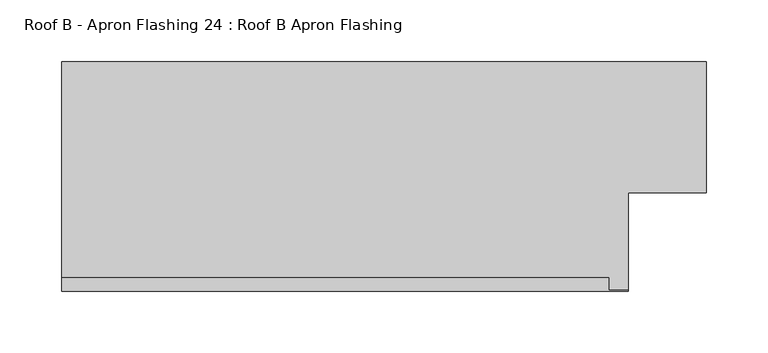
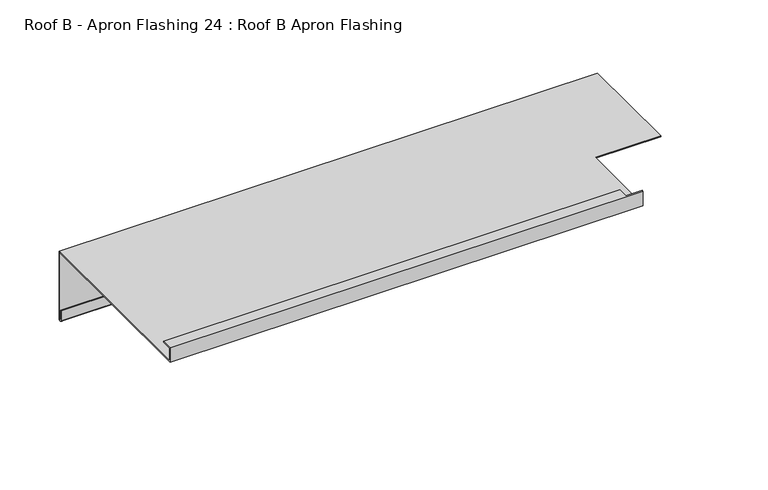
"""IFC4 building model written with IfcOpenShell, lengths in millimetres: proxy geometry, Roof B - Apron Flashing 24 : Roof B Apron Flashing."""

import ifcopenshell
import ifcopenshell.guid

model = None  # the IFC model being written
_history = None  # IfcOwnerHistory: only IFC2X3 demands one
_inside = {}  # id of a spatial element -> (the spatial element, [elements in it])
_under = {}  # id of a project, library or spatial element -> (it, [spatial elements below it])
_declared = {}  # id of a project -> (the project, [libraries it declares])
_typed = {}  # id of a type object -> (the type object, [elements of that type])
_made_of = {}  # id of a material, layer set ... -> (it, [elements and type objects made of it])


def new_model(schema):
    """Start an empty IFC model of exactly this schema.

    Asked for "IFC4X3", IfcOpenShell would pick the latest addendum, in which some entities
    have other attributes; the version numbers below select the first issue.
    IFC2X3 requires an IfcOwnerHistory on every rooted entity: one is made here for all.
    """
    global model, _history
    if schema == "IFC4X3":
        model = ifcopenshell.file(schema_version=(4, 3, 0, 0))
    else:
        model = ifcopenshell.file(schema=schema)
    _inside.clear()
    _under.clear()
    _declared.clear()
    _typed.clear()
    _made_of.clear()
    _history = None
    if model.schema == "IFC2X3":
        org = make("IfcOrganization", Name="unknown")
        user = make(
            "IfcPersonAndOrganization",
            ThePerson=make("IfcPerson", FamilyName="unknown"),
            TheOrganization=org,
        )
        app = make(
            "IfcApplication",
            ApplicationDeveloper=org,
            Version="unknown",
            ApplicationFullName="unknown",
            ApplicationIdentifier="unknown",
        )
        _history = make(
            "IfcOwnerHistory",
            OwningUser=user,
            OwningApplication=app,
            ChangeAction="ADDED",
            CreationDate=0,
        )
    return model


def make(cls, **values):
    """One entity of the class cls with the attributes given. An attribute that is None is left unset."""
    return model.create_entity(
        cls, **{name: value for name, value in values.items() if value is not None}
    )


def rooted(cls, **values):
    """An entity with a GlobalId (a new one), such as an element, a storey or a relation."""
    return make(cls, GlobalId=ifcopenshell.guid.new(), OwnerHistory=_history, **values)


def si_unit(unit_type, name, prefix=None):
    """IfcSIUnit, for example si_unit("LENGTHUNIT", "METRE", prefix="MILLI")."""
    return make("IfcSIUnit", UnitType=unit_type, Prefix=prefix, Name=name)


def assignment(units):
    """IfcUnitAssignment: the units of a project."""
    return None if units is None else make("IfcUnitAssignment", Units=units)


def point(xyz):
    """IfcCartesianPoint."""
    return None if xyz is None else make("IfcCartesianPoint", Coordinates=xyz)


def direction(xyz):
    """IfcDirection."""
    return None if xyz is None else make("IfcDirection", DirectionRatios=xyz)


def frame(location, z_axis=None, x_axis=None):
    """IfcAxis2Placement3D, a coordinate frame: its origin and axes. An axis left out is left unset."""
    return make(
        "IfcAxis2Placement3D",
        Location=point(location),
        Axis=direction(z_axis),
        RefDirection=direction(x_axis),
    )


def origin():
    """The frame at (0, 0, 0) with its axes left unset."""
    return frame((0.0, 0.0, 0.0))


def place(relative_to, where):
    """IfcLocalPlacement: puts the frame where relative to a parent placement (None: the world)."""
    return make(
        "IfcLocalPlacement", PlacementRelTo=relative_to, RelativePlacement=where
    )


def context(
    kind, dimensions, precision=None, world=None, true_north=None, identifier=None
):
    """IfcGeometricRepresentationContext, for example the 3D "Model" context."""
    return make(
        "IfcGeometricRepresentationContext",
        ContextIdentifier=identifier,
        ContextType=kind,
        CoordinateSpaceDimension=dimensions,
        Precision=precision,
        WorldCoordinateSystem=world,
        TrueNorth=true_north,
    )


def project(units=None, contexts=None):
    """IfcProject with its units and contexts."""
    return rooted(
        "IfcProject",
        Name="project",
        RepresentationContexts=contexts,
        UnitsInContext=assignment(units),
    )


def spatial(cls, under=None, at=None, **own):
    """A site, building, storey or space (cls), placed at a placement, below another one or the project."""
    s = rooted(cls, ObjectPlacement=at, **own)
    if under is not None:
        _under.setdefault(under.id(), (under, []))[1].append(s)
    return s


def polyline(points):
    """IfcPolyline through the points."""
    return make("IfcPolyline", Points=[point(p) for p in points])


def circle_curve(where, radius):
    """IfcCircle in the frame where."""
    return make("IfcCircle", Position=where, Radius=radius)


def shape(context_of_items, identifier, shape_type, items):
    """IfcShapeRepresentation: the items that make up one representation, for example the "Body"."""
    return make(
        "IfcShapeRepresentation",
        ContextOfItems=context_of_items,
        RepresentationIdentifier=identifier,
        RepresentationType=shape_type,
        Items=items,
    )


def source(mapping_origin, context_of_items, identifier, shape_type, items):
    """IfcRepresentationMap: a shape defined once, which mapped items show again and again."""
    return make(
        "IfcRepresentationMap",
        MappingOrigin=mapping_origin,
        MappedRepresentation=shape(context_of_items, identifier, shape_type, items),
    )


def transform(
    local_origin,
    x_axis=None,
    y_axis=None,
    z_axis=None,
    scale=None,
    scale2=None,
    scale3=None,
    uniform=True,
):
    """IfcCartesianTransformationOperator3D, or its non-uniform kind. x_axis, y_axis, z_axis: its Axis1, 2, 3."""
    if uniform:
        return make(
            "IfcCartesianTransformationOperator3D",
            Axis1=direction(x_axis),
            Axis2=direction(y_axis),
            LocalOrigin=point(local_origin),
            Scale=scale,
            Axis3=direction(z_axis),
        )
    return make(
        "IfcCartesianTransformationOperator3DnonUniform",
        Axis1=direction(x_axis),
        Axis2=direction(y_axis),
        LocalOrigin=point(local_origin),
        Scale=scale,
        Axis3=direction(z_axis),
        Scale2=scale2,
        Scale3=scale3,
    )


def mapped(mapping_source, mapping_target):
    """IfcMappedItem: shows the shape of a source again, moved by a transform."""
    return make(
        "IfcMappedItem", MappingSource=mapping_source, MappingTarget=mapping_target
    )


def made_of(thing, what):
    """Note that an element or type object is made of a material, layer set ...; save() writes the relation."""
    if what is not None:
        _made_of.setdefault(what.id(), (what, []))[1].append(thing)
    return thing


def element(
    cls,
    number,
    at=None,
    inside=None,
    cuts=None,
    type_object=None,
    material=None,
    context=None,
    identifier="Body",
    shape_type=None,
    held_by="IfcProductDefinitionShape",
    body=None,
    shapes=None,
    **own,
):
    """One element of the class cls, such as IfcWall. Its Tag is "e" and its number.

    at: its placement. inside: the storey or other place that contains it. cuts: it is an
    opening in that element (IfcRelVoidsElement). A single representation is given by context,
    identifier, shape_type and body (its items); several are given by shapes. held_by: the class
    of the entity that holds the representations. save() writes the other relations.
    """
    e = rooted(cls, Tag="e%d" % number, ObjectPlacement=at, **own)
    if body is not None:
        shapes = [shape(context, identifier, shape_type, body)]
    if shapes is not None:
        e.Representation = make(held_by, Representations=shapes)
    if inside is not None:
        _inside.setdefault(inside.id(), (inside, []))[1].append(e)
    if cuts is not None:
        rooted(
            "IfcRelVoidsElement", RelatingBuildingElement=cuts, RelatedOpeningElement=e
        )
    if type_object is not None:
        _typed.setdefault(type_object.id(), (type_object, []))[1].append(e)
    return made_of(e, material)


def aggregate(whole, parts):
    """IfcRelAggregates: a whole, such as a stair, and the parts it consists of."""
    return rooted("IfcRelAggregates", RelatingObject=whole, RelatedObjects=parts)


def save(model, path):
    """Write the relations noted so far, then the file.

    IfcRelAggregates (storeys below a building ...), IfcRelContainedInSpatialStructure (elements
    in a storey), IfcRelDefinesByType, IfcRelAssociatesMaterial and IfcRelDeclares: one each for
    every whole, place, type object, material and project.
    """
    for whole, parts in _under.values():
        aggregate(whole, parts)
    for where, things in _inside.values():
        rooted(
            "IfcRelContainedInSpatialStructure",
            RelatedElements=things,
            RelatingStructure=where,
        )
    for kind, things in _typed.values():
        rooted("IfcRelDefinesByType", RelatedObjects=things, RelatingType=kind)
    for what, things in _made_of.values():
        rooted("IfcRelAssociatesMaterial", RelatedObjects=things, RelatingMaterial=what)
    for by, libraries in _declared.values():
        rooted("IfcRelDeclares", RelatingContext=by, RelatedDefinitions=libraries)
    model.write(path)


def plane_surface(at):
    """IfcPlane: the flat surface through the origin of the frame at, square to its z axis."""
    return make("IfcPlane", Position=at)


def cylinder_surface(at, radius):
    """IfcCylindricalSurface: all points at the distance radius from the z axis of the frame at."""
    return make("IfcCylindricalSurface", Position=at, Radius=radius)


def revolved_surface(curve, axis_point, axis_direction):
    """IfcSurfaceOfRevolution: the curve turned about the line through axis_point along axis_direction."""
    return make(
        "IfcSurfaceOfRevolution",
        SweptCurve=make("IfcArbitraryOpenProfileDef", ProfileType="CURVE", Curve=curve),
        AxisPosition=make("IfcAxis1Placement", Location=point(axis_point), Axis=direction(axis_direction)),
    )


def advanced_brep(points, edges, surfaces, faces):
    """IfcAdvancedBrep: a solid bounded by faces that lie on surfaces and meet in shared edges.

    An edge is (start, end): straight between two places in points (the first is 0);
    or (start, end, curve); or (start, end, curve, False) where it runs against its curve.
    A face is (place in surfaces, loops), or (place, loops, False) where it looks against
    its surface's normal. A loop lists edges by number (the first is 1), with a minus sign
    where the edge is run from its end to its start. The first loop is the outer one.
    """
    corners = [point(p) for p in points]
    vertices = [make("IfcVertexPoint", VertexGeometry=c) for c in corners]
    made = []
    for start, end, *more in edges:
        made.append(
            make(
                "IfcEdgeCurve",
                EdgeStart=vertices[start],
                EdgeEnd=vertices[end],
                EdgeGeometry=more[0] if more else make("IfcPolyline", Points=[corners[start], corners[end]]),
                SameSense=more[1] if len(more) > 1 else True,
            )
        )
    hull = []
    for where, loops, *sense in faces:
        bounds = []
        for j, loop in enumerate(loops):
            ring = [make("IfcOrientedEdge", EdgeElement=made[abs(k) - 1], Orientation=k > 0) for k in loop]
            bounds.append(
                make(
                    "IfcFaceOuterBound" if j == 0 else "IfcFaceBound",
                    Bound=make("IfcEdgeLoop", EdgeList=ring),
                    Orientation=True,
                )
            )
        hull.append(make("IfcAdvancedFace", Bounds=bounds, FaceSurface=surfaces[where], SameSense=sense[0] if sense else True))
    return make("IfcAdvancedBrep", Outer=make("IfcClosedShell", CfsFaces=hull))


def roof_b_apron_flashing_24_roof_b_apron_flashing_b4c4b611(model_context):
    return source(origin(), model_context, "Body", "AdvancedBrep", [
        advanced_brep(
        [(12380.5305854, -23648.7910321, -986.662203), (12380.5305854, -23648.7910321, -1055.0764166), (12380.5305854, -23649.7910321, -1055.0764166), (12380.5305854, -23649.7910321, -1045.1233066), (12380.5305854, -23650.7910321, -1045.1233066), (12380.5305854, -23650.7910321, -1055.0764166), (12380.5305854, -23647.7910321, -1055.0764166), (12380.5305854, -23647.7910321, -985.662203), (12380.5305854, -23754.2341805, -985.662203), (12380.5305854, -23754.2341805, -986.662203), (11857.2186679, -23647.7910321, -985.662203), (11857.2186679, -23647.7910321, -1055.0764166), (11857.2186679, -23650.7910321, -1055.0764166), (11857.2186679, -23650.7910321, -1045.1233066), (11857.2186679, -23649.7910321, -1045.1233066), (11857.2186679, -23649.7910321, -1055.0764166), (11857.2186679, -23648.7910321, -1055.0764166), (11857.2186679, -23648.7910321, -986.662203), (11857.2186679, -23834.2321624, -986.662203), (11857.2186679, -23834.2321624, -971.662203), (11857.2186679, -23823.1938498, -971.662203), (11857.2186679, -23823.1938498, -972.662203), (11857.2186679, -23833.2321624, -972.662203), (11857.2186679, -23833.2321624, -985.662203), (12317.2186679, -23833.2321624, -985.662203), (12317.2186679, -23754.2341805, -985.662203), (12317.2186679, -23754.2341805, -986.662203), (12317.2186679, -23834.2321624, -986.662203), (12301.0910924, -23833.2321624, -972.662203), (12301.0910924, -23833.2321624, -971.662203), (12317.2186679, -23833.2321624, -971.662203), (12301.0910924, -23823.1938498, -972.662203), (12301.0910924, -23823.1938498, -971.662203), (12317.2186679, -23834.2321624, -971.662203)],
        [
            (0, 1),
            (1, 2, circle_curve(frame((12380.5305854, -23649.2910321, -1055.0764166), z_axis=(-1.0, 0.0, 0.0), x_axis=(0.0, 0.0, 1.0)), 0.5)),
            (2, 3),
            (3, 4),
            (4, 5),
            (5, 6, circle_curve(frame((12380.5305854, -23649.2910321, -1055.0764166), z_axis=(1.0, 0.0, 0.0), x_axis=(0.0, 0.0, 1.0)), 1.5)),
            (6, 7),
            (7, 8),
            (8, 9),
            (9, 0),
            (10, 11),
            (11, 12, circle_curve(frame((11857.2186679, -23649.2910321, -1055.0764166), z_axis=(-1.0, 0.0, 0.0), x_axis=(0.0, 0.0, 1.0)), 1.5)),
            (12, 13),
            (13, 14),
            (14, 15),
            (15, 16, circle_curve(frame((11857.2186679, -23649.2910321, -1055.0764166), z_axis=(1.0, 0.0, 0.0), x_axis=(0.0, 0.0, 1.0)), 0.5)),
            (16, 17),
            (17, 18),
            (18, 19),
            (19, 20),
            (20, 21),
            (21, 22),
            (22, 23),
            (23, 10),
            (23, 24),
            (24, 25),
            (25, 8),
            (7, 10),
            (17, 0),
            (9, 26),
            (26, 27),
            (27, 18),
            (16, 1),
            (6, 11),
            (22, 28),
            (28, 29),
            (29, 30),
            (30, 24),
            (21, 31),
            (31, 28),
            (20, 32),
            (32, 31),
            (19, 33),
            (33, 30),
            (29, 32),
            (27, 33),
            (15, 2),
            (14, 3),
            (13, 4),
            (12, 5),
            (26, 25),
        ],
        [
            plane_surface(frame((12380.5305854, -23842.2642556, -1042.7388515), z_axis=(1.0, 0.0, 0.0), x_axis=(0.0, 1.0, 0.0))),
            plane_surface(frame((11857.2186679, -23842.2642556, -1042.7388515), z_axis=(-1.0, 0.0, 0.0), x_axis=(0.0, 1.0, 0.0))),
            plane_surface(frame((12380.5305854, -23647.7910321, -985.662203), z_axis=(0.0, 0.0, 1.0), x_axis=(-1.0, 0.0, 0.0))),
            plane_surface(frame((12380.5305854, -23834.2321624, -986.662203), z_axis=(0.0, 0.0, -1.0), x_axis=(-1.0, 0.0, 0.0))),
            plane_surface(frame((12380.5305854, -23648.7910321, -986.662203), z_axis=(0.0, -1.0, 0.0), x_axis=(-1.0, 0.0, 0.0))),
            plane_surface(frame((12380.5305854, -23647.7910321, -1055.0764166), z_axis=(0.0, 1.0, 0.0), x_axis=(-1.0, 0.0, 0.0))),
            plane_surface(frame((12380.5305854, -23833.2321624, -985.662203), z_axis=(0.0, 1.0, 0.0), x_axis=(-1.0, 0.0, 0.0))),
            plane_surface(frame((12380.5305854, -23833.2321624, -972.662203), z_axis=(0.0, 0.0, -1.0), x_axis=(-1.0, 0.0, 0.0))),
            plane_surface(frame((12380.5305854, -23823.1938498, -972.662203), z_axis=(0.0, 1.0, 0.0), x_axis=(-1.0, 0.0, 0.0))),
            plane_surface(frame((12380.5305854, -23823.1938498, -971.662203), z_axis=(0.0, 0.0, 1.0), x_axis=(-1.0, 0.0, 0.0))),
            plane_surface(frame((12380.5305854, -23834.2321624, -971.662203), z_axis=(0.0, -1.0, 0.0), x_axis=(-1.0, 0.0, 0.0))),
            revolved_surface(polyline([(11857.2186679, -23649.2910321, -1054.5764166), (12380.5305854, -23649.2910321, -1054.5764166)]), (12380.5305854, -23649.2910321, -1055.0764166), (-1.0, 0.0, 0.0)),
            plane_surface(frame((12380.5305854, -23649.7910321, -1055.0764166), z_axis=(0.0, 1.0, 0.0), x_axis=(-1.0, 0.0, 0.0))),
            plane_surface(frame((12380.5305854, -23649.7910321, -1045.1233066), z_axis=(0.0, 0.0, 1.0), x_axis=(-1.0, 0.0, 0.0))),
            plane_surface(frame((12380.5305854, -23650.7910321, -1045.1233066), z_axis=(0.0, -1.0, 0.0), x_axis=(-1.0, 0.0, 0.0))),
            cylinder_surface(frame((12380.5305854, -23649.2910321, -1055.0764166), z_axis=(1.0, 0.0, 0.0), x_axis=(0.0, 0.0, 1.0)), 1.5),
            plane_surface(frame((12317.2186679, -23754.2341805, -1079.9089722), z_axis=(1.0, 0.0, 0.0), x_axis=(0.0, -0.9659258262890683, 0.25881904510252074))),
            plane_surface(frame((12317.2186679, -23754.2341805, -852.4830665), z_axis=(0.0, -1.0, 0.0), x_axis=(1.0, 0.0, 0.0))),
            plane_surface(frame((12301.0910924, -23833.2321117, -884.3834078), z_axis=(1.0, 0.0, 0.0), x_axis=(0.0, 0.0, -1.0))),
        ],
        [
            (0, [[1, 2, 3, 4, 5, 6, 7, 8, 9, 10]]),
            (1, [[11, 12, 13, 14, 15, 16, 17, 18, 19, 20, 21, 22, 23, 24]]),
            (2, [[-24, 25, 26, 27, -8, 28]]),
            (3, [[-18, 29, -10, 30, 31, 32]]),
            (4, [[-1, -29, -17, 33]]),
            (5, [[-7, 34, -11, -28]]),
            (6, [[-23, 35, 36, 37, 38, -25]]),
            (7, [[-22, 39, 40, -35]]),
            (8, [[-21, 41, 42, -39]]),
            (9, [[-20, 43, 44, -37, 45, -41]]),
            (10, [[-19, -32, 46, -43]]),
            (11, [[-2, -33, -16, 47]]),
            (12, [[-3, -47, -15, 48]]),
            (13, [[-4, -48, -14, 49]]),
            (14, [[-5, -49, -13, 50]]),
            (15, [[-6, -50, -12, -34]]),
            (16, [[51, -26, -38, -44, -46, -31]]),
            (17, [[-51, -30, -9, -27]]),
            (18, [[-36, -40, -42, -45]]),
        ],
    ),
    ])


if __name__ == "__main__":
    model = new_model("IFC4")
    model_context = context("Model", 3, world=origin())
    ifc_project = project(units=[si_unit("LENGTHUNIT", "METRE", prefix="MILLI")], contexts=[model_context])
    site = spatial("IfcSite", under=ifc_project)
    building = spatial("IfcBuilding", under=site)
    placement = place(None, origin())
    roof_b_apron_flashing_24_roof_b_apron_flashing_shape = roof_b_apron_flashing_24_roof_b_apron_flashing_b4c4b611(model_context)
    element("IfcBuildingElementProxy", 1, Name="Roof B - Apron Flashing 24 : Roof B Apron Flashing", ObjectType="Roof B - Apron Flashing 24 : Roof B Apron Flashing", at=placement, inside=building, context=model_context, shape_type="MappedRepresentation", body=[
        mapped(roof_b_apron_flashing_24_roof_b_apron_flashing_shape, transform((0.0, 0.0, 0.0), x_axis=(1.0, 0.0, 0.0), y_axis=(0.0, 1.0, 0.0), z_axis=(0.0, 0.0, 1.0))),
    ])
    save(model, "model.ifc")
